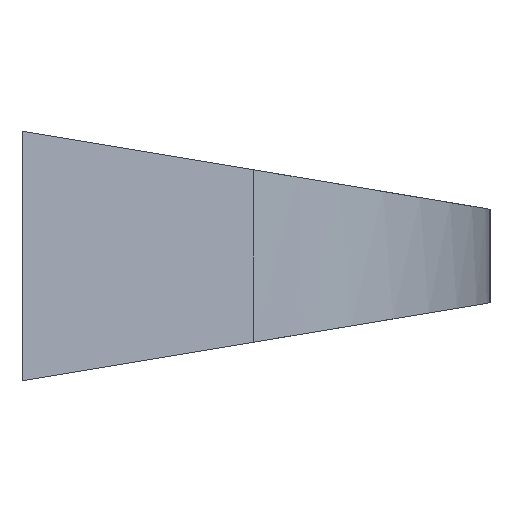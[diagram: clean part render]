
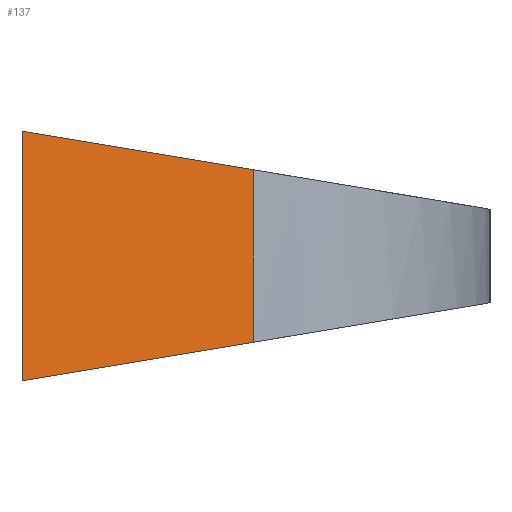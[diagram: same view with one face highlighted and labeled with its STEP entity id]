
A CAD part, left-side view. The second image highlights one B-rep face of the part: STEP entity #137.
In plain terms, the highlighted planar face has unit normal (-0.97, -0.242, 0).
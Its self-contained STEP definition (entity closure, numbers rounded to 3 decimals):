
#137 = ADVANCED_FACE( '', ( #355 ), #356, .T. );
#183 = VERTEX_POINT( '', #409 );
#185 = VERTEX_POINT( '', #411 );
#187 = EDGE_CURVE( '', #185, #251, #413, .T. );
#191 = VERTEX_POINT( '', #417 );
#205 = EDGE_CURVE( '', #183, #185, #431, .T. );
#245 = EDGE_CURVE( '', #183, #191, #476, .T. );
#251 = VERTEX_POINT( '', #483 );
#305 = EDGE_CURVE( '', #251, #191, #544, .T. );
#355 = FACE_OUTER_BOUND( '', #590, .T. );
#356 = PLANE( '', #591 );
#409 = CARTESIAN_POINT( '', ( -4.3, -14.838, 5.527 ) );
#411 = CARTESIAN_POINT( '', ( -8., 0., 8. ) );
#413 = LINE( '', #662, #663 );
#417 = CARTESIAN_POINT( '', ( -4.3, -14.838, -5.527 ) );
#431 = LINE( '', #688, #689 );
#476 = LINE( '', #752, #753 );
#483 = CARTESIAN_POINT( '', ( -8., 0., -8. ) );
#544 = LINE( '', #846, #847 );
#590 = EDGE_LOOP( '', ( #882, #883, #884, #885 ) );
#591 = AXIS2_PLACEMENT_3D( '', #886, #887, #888 );
#662 = CARTESIAN_POINT( '', ( -8., 0., 8. ) );
#663 = VECTOR( '', #946, 1. );
#688 = CARTESIAN_POINT( '', ( -8.342, 1.373, 8.229 ) );
#689 = VECTOR( '', #960, 1. );
#752 = CARTESIAN_POINT( '', ( -4.3, -14.838, 8. ) );
#753 = VECTOR( '', #1010, 1. );
#846 = CARTESIAN_POINT( '', ( -4.511, -13.995, -5.667 ) );
#847 = VECTOR( '', #1112, 1. );
#882 = ORIENTED_EDGE( '', *, *, #305, .T. );
#883 = ORIENTED_EDGE( '', *, *, #245, .F. );
#884 = ORIENTED_EDGE( '', *, *, #205, .T. );
#885 = ORIENTED_EDGE( '', *, *, #187, .T. );
#886 = CARTESIAN_POINT( '', ( -8., 0., 8. ) );
#887 = DIRECTION( '', ( -0.97, -0.242, 0. ) );
#888 = DIRECTION( '', ( -0.242, 0.97, 0. ) );
#946 = DIRECTION( '', ( 0., 0., -1. ) );
#960 = DIRECTION( '', ( -0.239, 0.958, 0.16 ) );
#1010 = DIRECTION( '', ( 0., 0., -1. ) );
#1112 = DIRECTION( '', ( 0.239, -0.958, 0.16 ) );
